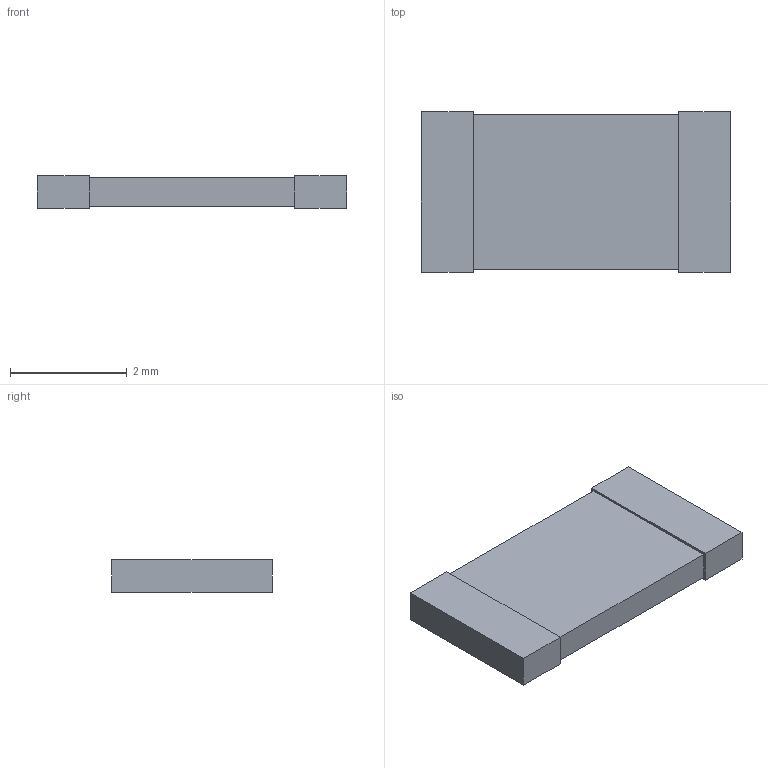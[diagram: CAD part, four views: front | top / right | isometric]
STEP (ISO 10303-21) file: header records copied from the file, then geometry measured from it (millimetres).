
FILE_DESCRIPTION(('STEP AP214'),'1');
FILE_NAME('RES_VMP2010_ISA','2025-10-02T08:36:15',(''),(''),'','','');
FILE_SCHEMA(('AUTOMOTIVE_DESIGN'));
Length unit declared in the file: millimetre
Products named in the file (1): product
Bounding box: 5.28 x 2.74 x 0.56 mm (x, y, z)
Volume: 7.2 mm3; surface area: 42.5 mm2
Topology: 3 solids, 3 shells, 18 faces, 36 edges, 24 vertices
Faces by surface type: plane 18
Entity records: 606 total; most frequent: DIRECTION 74, ORIENTED_EDGE 72, CARTESIAN_POINT 43, EDGE_CURVE 36, LINE 36, VECTOR 36, VERTEX_POINT 24, AXIS2_PLACEMENT_3D 19
